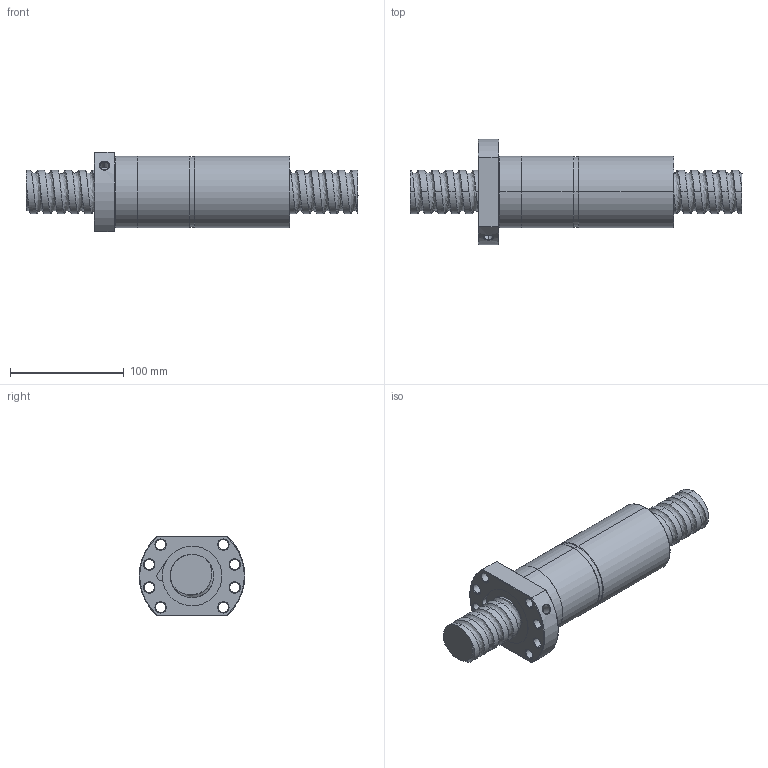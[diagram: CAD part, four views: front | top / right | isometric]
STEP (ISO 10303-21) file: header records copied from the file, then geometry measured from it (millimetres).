
FILE_DESCRIPTION (( 'STEP AP214' ), '1' );
FILE_NAME ('FDDC03812T5-F-C.STEP', '2010-07-06T05:34:19', ( 'XPAUTO' ), ( 'XPAUTO' ), 'SwSTEP 2.0', 'SolidWorks 2007', '' );
FILE_SCHEMA (( 'AUTOMOTIVE_DESIGN' ));
Length unit declared in the file: millimetre
Products named in the file (3): FDDC03812T5-F-C; FDDC03812T5-F-C.sldasm-Part-2_預設; FDDC03812T5-F-C.sldasm-Part-1_預設
Assembly tree (2 placements, depth 2):
  FDDC03812T5-F-C
    FDDC03812T5-F-C.sldasm-Part-2_預設
    FDDC03812T5-F-C.sldasm-Part-1_預設
Bounding box: 292 x 93 x 70 mm (x, y, z)
Volume: 674257.7 mm3; surface area: 111502 mm2
Topology: 2 solids, 2 shells, 163 faces, 407 edges, 253 vertices
Faces by surface type: cylinder 94, cone 32, plane 22, torus 10, bspline 5
Entity records: 46236 total; most frequent: CARTESIAN_POINT 42390, ORIENTED_EDGE 814, DIRECTION 743, EDGE_CURVE 407, AXIS2_PLACEMENT_3D 300, VERTEX_POINT 253, EDGE_LOOP 188, ADVANCED_FACE 163
